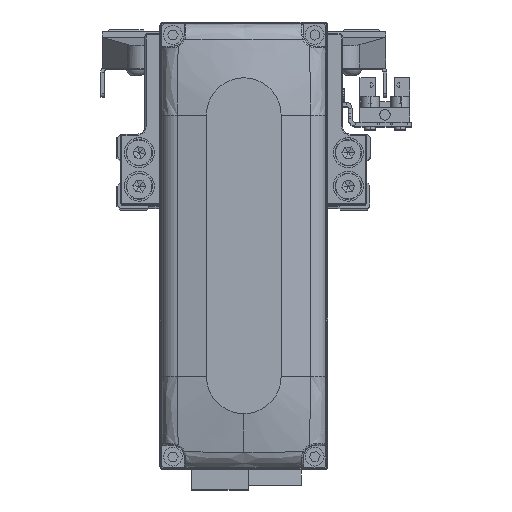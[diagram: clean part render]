
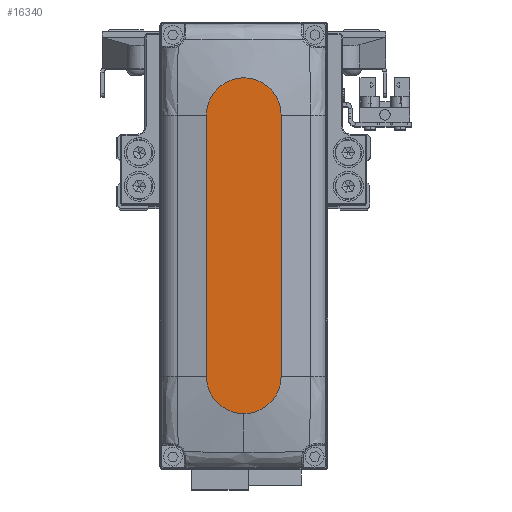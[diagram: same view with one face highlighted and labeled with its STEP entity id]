
A CAD part, top view. The second image highlights one B-rep face of the part: STEP entity #16340.
In plain terms, the highlighted planar face has unit normal (0, 0, 1).
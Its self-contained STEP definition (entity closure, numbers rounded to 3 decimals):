
#186 = DIRECTION ( 'NONE',  ( 1., 0., 0. ) ) ;
#784 = DIRECTION ( 'NONE',  ( -1., 0., 0. ) ) ;
#889 = VERTEX_POINT ( 'NONE', #36947 ) ;
#3759 = CARTESIAN_POINT ( 'NONE',  ( 0., 0., 28. ) ) ;
#5237 = DIRECTION ( 'NONE',  ( 0., 0., 1. ) ) ;
#5731 = AXIS2_PLACEMENT_3D ( 'NONE', #3759, #16898, #30036 ) ;
#6330 = VERTEX_POINT ( 'NONE', #28454 ) ;
#6791 = DIRECTION ( 'NONE',  ( 1., 0., 0. ) ) ;
#10588 = CIRCLE ( 'NONE', #34646, 10. ) ;
#10987 = ORIENTED_EDGE ( 'NONE', *, *, #36453, .T. ) ;
#11880 = CARTESIAN_POINT ( 'NONE',  ( -35., 0., 28. ) ) ;
#14097 = ORIENTED_EDGE ( 'NONE', *, *, #38420, .T. ) ;
#15816 = CARTESIAN_POINT ( 'NONE',  ( -35., -10., 28. ) ) ;
#16340 = ADVANCED_FACE ( 'NONE', ( #20109 ), #33244, .T. ) ;
#16550 = CARTESIAN_POINT ( 'NONE',  ( 35., 0., 28. ) ) ;
#16898 = DIRECTION ( 'NONE',  ( 0., 0., 1. ) ) ;
#17146 = LINE ( 'NONE', #30269, #39450 ) ;
#18364 = DIRECTION ( 'NONE',  ( 1., 0., 0. ) ) ;
#19744 = AXIS2_PLACEMENT_3D ( 'NONE', #16550, #29678, #186 ) ;
#20109 = FACE_OUTER_BOUND ( 'NONE', #31524, .T. ) ;
#22978 = AXIS2_PLACEMENT_3D ( 'NONE', #34718, #5237, #18364 ) ;
#23136 = LINE ( 'NONE', #36284, #35331 ) ;
#24361 = ORIENTED_EDGE ( 'NONE', *, *, #41201, .T. ) ;
#25011 = DIRECTION ( 'NONE',  ( 0., 0., 1. ) ) ;
#25829 = CARTESIAN_POINT ( 'NONE',  ( 35., 10., 28. ) ) ;
#26443 = CARTESIAN_POINT ( 'NONE',  ( 35., -10., 28. ) ) ;
#27356 = VERTEX_POINT ( 'NONE', #25829 ) ;
#28454 = CARTESIAN_POINT ( 'NONE',  ( -35., 10., 28. ) ) ;
#29515 = VERTEX_POINT ( 'NONE', #15816 ) ;
#29678 = DIRECTION ( 'NONE',  ( 0., 0., 1. ) ) ;
#30036 = DIRECTION ( 'NONE',  ( 1., 0., 0. ) ) ;
#30269 = CARTESIAN_POINT ( 'NONE',  ( -35., 10., 28. ) ) ;
#31458 = VERTEX_POINT ( 'NONE', #26443 ) ;
#31524 = EDGE_LOOP ( 'NONE', ( #10987, #40080, #41311, #24361, #14097 ) ) ;
#33244 = PLANE ( 'NONE',  #5731 ) ;
#34646 = AXIS2_PLACEMENT_3D ( 'NONE', #11880, #25011, #38152 ) ;
#34718 = CARTESIAN_POINT ( 'NONE',  ( 35., 0., 28. ) ) ;
#35331 = VECTOR ( 'NONE', #6791, 1000. ) ;
#36284 = CARTESIAN_POINT ( 'NONE',  ( -35., -10., 28. ) ) ;
#36453 = EDGE_CURVE ( 'NONE', #27356, #6330, #17146, .T. ) ;
#36947 = CARTESIAN_POINT ( 'NONE',  ( 45., 0., 28. ) ) ;
#38145 = EDGE_CURVE ( 'NONE', #29515, #31458, #23136, .T. ) ;
#38152 = DIRECTION ( 'NONE',  ( 1., 0., 0. ) ) ;
#38291 = CIRCLE ( 'NONE', #19744, 10. ) ;
#38420 = EDGE_CURVE ( 'NONE', #889, #27356, #41523, .T. ) ;
#39450 = VECTOR ( 'NONE', #784, 1000. ) ;
#40080 = ORIENTED_EDGE ( 'NONE', *, *, #42445, .T. ) ;
#41201 = EDGE_CURVE ( 'NONE', #31458, #889, #38291, .T. ) ;
#41311 = ORIENTED_EDGE ( 'NONE', *, *, #38145, .T. ) ;
#41523 = CIRCLE ( 'NONE', #22978, 10. ) ;
#42445 = EDGE_CURVE ( 'NONE', #6330, #29515, #10588, .T. ) ;
